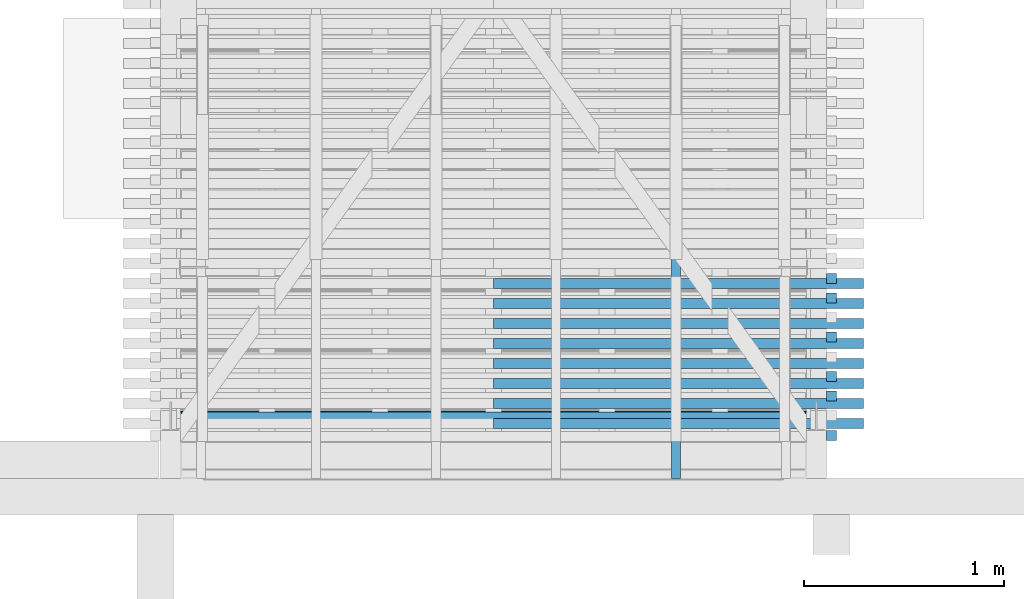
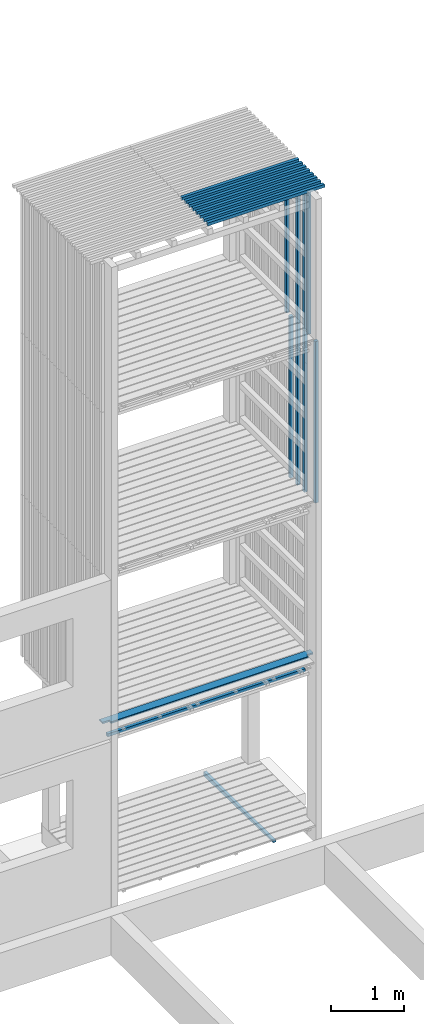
# One storey, part 69 of 182: 19 beams.
"""IFC2X3 building model written with IfcOpenShell, lengths in metres."""

from ifc_helpers import new_model, si_unit, frame, origin, place, context, project, spatial, faceted_brep, element, save


model = new_model("IFC2X3")

# Units and contexts
model_context = context("Model", 3, precision=1e-06, world=origin())
ifc_project = project(units=[si_unit("LENGTHUNIT", "METRE"), si_unit("PLANEANGLEUNIT", "RADIAN")], contexts=[model_context])

# Site, building, storey
site = spatial("IfcSite", under=ifc_project, CompositionType="ELEMENT")
building = spatial("IfcBuilding", under=site, CompositionType="ELEMENT")
storey = spatial("IfcBuildingStorey", under=building, Name="vs", CompositionType="ELEMENT", Elevation=-0.85)

# Beams
placement = place(None, origin())
beam_1_placement = place(placement, frame((26.399999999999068, 11.372350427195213, 5.274999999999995), z_axis=(-1.0, 0.0, 0.0), x_axis=(0.0, 0.0, 1.0)))
element("IfcBeam", 1, at=beam_1_placement, inside=storey, Name="Bardage", context=model_context, shape_type="Brep", body=[
    faceted_brep([(1e-15, -0.024999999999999, 0.024999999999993), (1e-15, 0.024999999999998, 0.024999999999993), (1e-15, 0.024999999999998, -0.025000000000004), (1e-15, -0.024999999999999, -0.025000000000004), (2.699999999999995, -0.024999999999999, -0.025000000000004), (2.699999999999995, 0.024999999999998, -0.025000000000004), (2.699999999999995, 0.024999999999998, 0.024999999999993), (2.699999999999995, -0.024999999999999, 0.024999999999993), (1e-15, -0.024999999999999, 0.024999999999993), (1e-15, -0.024999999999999, -0.025000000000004), (2.699999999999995, -0.024999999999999, -0.025000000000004), (2.699999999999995, -0.024999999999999, 0.024999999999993), (2.699999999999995, -0.024999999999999, -0.025000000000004), (1e-15, -0.024999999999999, -0.025000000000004), (1e-15, 0.024999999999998, -0.025000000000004), (2.699999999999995, 0.024999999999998, -0.025000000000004), (2.699999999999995, 0.024999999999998, -0.025000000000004), (1e-15, 0.024999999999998, -0.025000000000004), (1e-15, 0.024999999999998, 0.024999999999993), (2.699999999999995, 0.024999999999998, 0.024999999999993), (2.699999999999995, 0.024999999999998, 0.024999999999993), (1e-15, 0.024999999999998, 0.024999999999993), (1e-15, -0.024999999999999, 0.024999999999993), (2.699999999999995, -0.024999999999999, 0.024999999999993)], [[[0, 1, 2, 3]], [[4, 5, 6, 7]], [[8, 9, 10, 11]], [[12, 13, 14, 15]], [[16, 17, 18, 19]], [[20, 21, 22, 23]]]),
])
beam_2_placement = place(placement, frame((26.399999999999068, 10.6850776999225, 5.274999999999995), z_axis=(-1.0, 0.0, 0.0), x_axis=(0.0, 0.0, 1.0)))
element("IfcBeam", 2, at=beam_2_placement, inside=storey, Name="Bardage", context=model_context, shape_type="Brep", body=[
    faceted_brep([(1e-15, -0.025000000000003, 0.024999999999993), (1e-15, 0.024999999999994, 0.024999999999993), (1e-15, 0.024999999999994, -0.025000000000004), (1e-15, -0.025000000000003, -0.025000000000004), (2.699999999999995, -0.025000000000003, -0.025000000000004), (2.699999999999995, 0.024999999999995, -0.025000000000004), (2.699999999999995, 0.024999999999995, 0.024999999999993), (2.699999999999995, -0.025000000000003, 0.024999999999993), (1e-15, -0.025000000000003, 0.024999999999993), (1e-15, -0.025000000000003, -0.025000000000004), (2.699999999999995, -0.025000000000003, -0.025000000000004), (2.699999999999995, -0.025000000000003, 0.024999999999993), (2.699999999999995, -0.025000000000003, -0.025000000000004), (1e-15, -0.025000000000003, -0.025000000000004), (1e-15, 0.024999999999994, -0.025000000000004), (2.699999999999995, 0.024999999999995, -0.025000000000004), (2.699999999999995, 0.024999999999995, -0.025000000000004), (1e-15, 0.024999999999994, -0.025000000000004), (1e-15, 0.024999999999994, 0.024999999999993), (2.699999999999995, 0.024999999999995, 0.024999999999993), (2.699999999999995, 0.024999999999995, 0.024999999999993), (1e-15, 0.024999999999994, 0.024999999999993), (1e-15, -0.025000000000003, 0.024999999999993), (2.699999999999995, -0.025000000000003, 0.024999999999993)], [[[0, 1, 2, 3]], [[4, 5, 6, 7]], [[8, 9, 10, 11]], [[12, 13, 14, 15]], [[16, 17, 18, 19]], [[20, 21, 22, 23]]]),
])
beam_3_placement = place(placement, frame((26.559999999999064, 11.045077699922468, 10.47999999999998), z_axis=(0.0, 0.0, 1.0), x_axis=(-1.0, 0.0, 0.0)))
element("IfcBeam", 3, at=beam_3_placement, inside=storey, Name="Bardage", context=model_context, shape_type="Brep", body=[
    faceted_brep([(-3e-15, 0.025000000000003, 0.025000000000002), (-3e-15, -0.024999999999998, 0.025000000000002), (1.849999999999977, -0.025000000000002, 0.025000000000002), (1.849999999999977, 0.025000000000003, 0.025000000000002), (1.849999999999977, -0.025000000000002, 0.025000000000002), (-3e-15, -0.024999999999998, 0.025000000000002), (-3e-15, -0.024999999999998, -0.024999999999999), (1.849999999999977, -0.025000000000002, -0.024999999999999), (-3e-15, -0.024999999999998, 0.025000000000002), (-3e-15, 0.025000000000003, 0.025000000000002), (-3e-15, 0.025000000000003, -0.024999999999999), (-3e-15, -0.024999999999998, -0.024999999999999), (-3e-15, 0.025000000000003, -0.024999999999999), (-3e-15, 0.025000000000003, 0.025000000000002), (1.849999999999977, 0.025000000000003, 0.025000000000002), (1.849999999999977, 0.025000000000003, -0.024999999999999), (1.849999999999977, -0.025000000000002, -0.024999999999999), (-3e-15, -0.024999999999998, -0.024999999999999), (-3e-15, 0.025000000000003, -0.024999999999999), (1.849999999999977, 0.025000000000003, -0.024999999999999), (1.849999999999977, -0.025000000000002, 0.025000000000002), (1.849999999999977, -0.025000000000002, -0.024999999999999), (1.849999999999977, 0.025000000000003, -0.024999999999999), (1.849999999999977, 0.025000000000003, 0.025000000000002)], [[[0, 1, 2, 3]], [[4, 5, 6, 7]], [[8, 9, 10, 11]], [[12, 13, 14, 15]], [[16, 17, 18, 19]], [[20, 21, 22, 23]]]),
])
beam_4_placement = place(placement, frame((26.399999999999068, 10.979623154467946, 5.274999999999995), z_axis=(-1.0, 0.0, 0.0), x_axis=(0.0, 1e-15, 1.0)))
element("IfcBeam", 4, at=beam_4_placement, inside=storey, Name="Bardage", context=model_context, shape_type="Brep", body=[
    faceted_brep([(1e-15, -0.024999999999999, 0.024999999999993), (1e-15, 0.025000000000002, 0.024999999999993), (1e-15, 0.025000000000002, -0.025000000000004), (1e-15, -0.024999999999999, -0.025000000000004), (2.699999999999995, -0.025000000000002, -0.025000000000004), (2.699999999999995, 0.024999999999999, -0.025000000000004), (2.699999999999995, 0.024999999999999, 0.024999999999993), (2.699999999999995, -0.025000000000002, 0.024999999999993), (1e-15, -0.024999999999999, 0.024999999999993), (1e-15, -0.024999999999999, -0.025000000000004), (2.699999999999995, -0.025000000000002, -0.025000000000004), (2.699999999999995, -0.025000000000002, 0.024999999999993), (2.699999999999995, -0.025000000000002, -0.025000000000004), (1e-15, -0.024999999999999, -0.025000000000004), (1e-15, 0.025000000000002, -0.025000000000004), (2.699999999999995, 0.024999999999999, -0.025000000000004), (2.699999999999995, 0.024999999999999, -0.025000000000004), (1e-15, 0.025000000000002, -0.025000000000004), (1e-15, 0.025000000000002, 0.024999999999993), (2.699999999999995, 0.024999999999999, 0.024999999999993), (2.699999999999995, 0.024999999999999, 0.024999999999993), (1e-15, 0.025000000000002, 0.024999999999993), (1e-15, -0.024999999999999, 0.024999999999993), (2.699999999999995, -0.025000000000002, 0.024999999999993)], [[[0, 1, 2, 3]], [[4, 5, 6, 7]], [[8, 9, 10, 11]], [[12, 13, 14, 15]], [[16, 17, 18, 19]], [[20, 21, 22, 23]]]),
])
beam_5_placement = place(placement, frame((26.399999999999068, 11.17598679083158, 5.274999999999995), z_axis=(-1.0, 0.0, 0.0), x_axis=(0.0, 0.0, 1.0)))
element("IfcBeam", 5, at=beam_5_placement, inside=storey, Name="Bardage", context=model_context, shape_type="Brep", body=[
    faceted_brep([(1e-15, -0.025000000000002, 0.024999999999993), (1e-15, 0.024999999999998, 0.024999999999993), (1e-15, 0.024999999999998, -0.025000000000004), (1e-15, -0.025000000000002, -0.025000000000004), (2.699999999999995, -0.025000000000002, -0.025000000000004), (2.699999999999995, 0.024999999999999, -0.025000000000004), (2.699999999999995, 0.024999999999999, 0.024999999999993), (2.699999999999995, -0.025000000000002, 0.024999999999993), (1e-15, -0.025000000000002, 0.024999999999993), (1e-15, -0.025000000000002, -0.025000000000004), (2.699999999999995, -0.025000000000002, -0.025000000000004), (2.699999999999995, -0.025000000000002, 0.024999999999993), (2.699999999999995, -0.025000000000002, -0.025000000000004), (1e-15, -0.025000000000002, -0.025000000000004), (1e-15, 0.024999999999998, -0.025000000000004), (2.699999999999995, 0.024999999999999, -0.025000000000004), (2.699999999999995, 0.024999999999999, -0.025000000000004), (1e-15, 0.024999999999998, -0.025000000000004), (1e-15, 0.024999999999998, 0.024999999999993), (2.699999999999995, 0.024999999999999, 0.024999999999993), (2.699999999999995, 0.024999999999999, 0.024999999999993), (1e-15, 0.024999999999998, 0.024999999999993), (1e-15, -0.025000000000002, 0.024999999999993), (2.699999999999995, -0.025000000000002, 0.024999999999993)], [[[0, 1, 2, 3]], [[4, 5, 6, 7]], [[8, 9, 10, 11]], [[12, 13, 14, 15]], [[16, 17, 18, 19]], [[20, 21, 22, 23]]]),
])
beam_6_placement = place(placement, frame((26.399999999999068, 10.881441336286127, 7.974999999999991), z_axis=(-1.0, 0.0, 0.0), x_axis=(0.0, 0.0, 1.0)))
element("IfcBeam", 6, at=beam_6_placement, inside=storey, Name="Bardage", context=model_context, shape_type="Brep", body=[
    faceted_brep([(2.479999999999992, -0.024999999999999, 0.024999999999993), (2.479999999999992, -0.024999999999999, -0.025000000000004), (2.479999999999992, 0.025000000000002, -0.025000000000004), (2.479999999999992, 0.025000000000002, 0.024999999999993), (0.0, 0.025000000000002, 0.024999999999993), (0.0, -0.024999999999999, 0.024999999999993), (2.479999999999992, -0.024999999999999, 0.024999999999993), (2.479999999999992, 0.025000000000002, 0.024999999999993), (0.0, -0.024999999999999, 0.024999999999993), (0.0, 0.025000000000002, 0.024999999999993), (0.0, 0.025000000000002, -0.025000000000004), (0.0, -0.024999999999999, -0.025000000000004), (0.0, 0.025000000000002, -0.025000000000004), (0.0, 0.025000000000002, 0.024999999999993), (2.479999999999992, 0.025000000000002, 0.024999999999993), (2.479999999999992, 0.025000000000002, -0.025000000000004), (0.0, -0.024999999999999, -0.025000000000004), (0.0, 0.025000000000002, -0.025000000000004), (2.479999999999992, 0.025000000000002, -0.025000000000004), (2.479999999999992, -0.024999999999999, -0.025000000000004), (2.479999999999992, -0.024999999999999, 0.024999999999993), (0.0, -0.024999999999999, 0.024999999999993), (0.0, -0.024999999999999, -0.025000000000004), (2.479999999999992, -0.024999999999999, -0.025000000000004)], [[[0, 1, 2, 3]], [[4, 5, 6, 7]], [[8, 9, 10, 11]], [[12, 13, 14, 15]], [[16, 17, 18, 19]], [[20, 21, 22, 23]]]),
])
beam_7_placement = place(placement, frame((26.399999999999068, 10.979623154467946, 7.974999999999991), z_axis=(-1.0, 0.0, 0.0), x_axis=(0.0, 1e-15, 1.0)))
element("IfcBeam", 7, at=beam_7_placement, inside=storey, Name="Bardage", context=model_context, shape_type="Brep", body=[
    faceted_brep([(2.479999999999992, -0.025000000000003, 0.024999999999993), (2.479999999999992, -0.025000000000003, -0.025000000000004), (2.479999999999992, 0.024999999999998, -0.025000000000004), (2.479999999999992, 0.024999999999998, 0.024999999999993), (0.0, 0.025000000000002, 0.024999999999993), (0.0, -0.024999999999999, 0.024999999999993), (2.479999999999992, -0.025000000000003, 0.024999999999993), (2.479999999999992, 0.024999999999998, 0.024999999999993), (0.0, -0.024999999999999, 0.024999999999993), (0.0, 0.025000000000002, 0.024999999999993), (0.0, 0.025000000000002, -0.025000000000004), (0.0, -0.024999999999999, -0.025000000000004), (0.0, 0.025000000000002, -0.025000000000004), (0.0, 0.025000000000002, 0.024999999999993), (2.479999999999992, 0.024999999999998, 0.024999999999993), (2.479999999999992, 0.024999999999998, -0.025000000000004), (0.0, -0.024999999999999, -0.025000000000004), (0.0, 0.025000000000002, -0.025000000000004), (2.479999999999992, 0.024999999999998, -0.025000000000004), (2.479999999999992, -0.025000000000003, -0.025000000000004), (2.479999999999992, -0.025000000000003, 0.024999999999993), (0.0, -0.024999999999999, 0.024999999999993), (0.0, -0.024999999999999, -0.025000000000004), (2.479999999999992, -0.025000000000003, -0.025000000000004)], [[[0, 1, 2, 3]], [[4, 5, 6, 7]], [[8, 9, 10, 11]], [[12, 13, 14, 15]], [[16, 17, 18, 19]], [[20, 21, 22, 23]]]),
])
beam_8_placement = place(placement, frame((26.559999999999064, 11.245077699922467, 10.47999999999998), z_axis=(0.0, 0.0, 1.0), x_axis=(-1.0, 0.0, 0.0)))
element("IfcBeam", 8, at=beam_8_placement, inside=storey, Name="Bardage", context=model_context, shape_type="Brep", body=[
    faceted_brep([(-3e-15, 0.024999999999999, 0.025000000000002), (-3e-15, -0.024999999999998, 0.025000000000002), (1.849999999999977, -0.024999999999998, 0.025000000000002), (1.849999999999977, 0.024999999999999, 0.025000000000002), (1.849999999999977, -0.024999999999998, 0.025000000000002), (-3e-15, -0.024999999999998, 0.025000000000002), (-3e-15, -0.024999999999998, -0.024999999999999), (1.849999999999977, -0.024999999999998, -0.024999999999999), (-3e-15, -0.024999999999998, 0.025000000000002), (-3e-15, 0.024999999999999, 0.025000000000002), (-3e-15, 0.024999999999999, -0.024999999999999), (-3e-15, -0.024999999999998, -0.024999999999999), (-3e-15, 0.024999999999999, -0.024999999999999), (-3e-15, 0.024999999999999, 0.025000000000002), (1.849999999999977, 0.024999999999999, 0.025000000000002), (1.849999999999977, 0.024999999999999, -0.024999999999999), (1.849999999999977, -0.024999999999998, -0.024999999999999), (-3e-15, -0.024999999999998, -0.024999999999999), (-3e-15, 0.024999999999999, -0.024999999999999), (1.849999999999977, 0.024999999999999, -0.024999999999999), (1.849999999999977, -0.024999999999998, 0.025000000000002), (1.849999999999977, -0.024999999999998, -0.024999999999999), (1.849999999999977, 0.024999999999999, -0.024999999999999), (1.849999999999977, 0.024999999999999, 0.025000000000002)], [[[0, 1, 2, 3]], [[4, 5, 6, 7]], [[8, 9, 10, 11]], [[12, 13, 14, 15]], [[16, 17, 18, 19]], [[20, 21, 22, 23]]]),
])
beam_9_placement = place(placement, frame((26.399999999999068, 11.17598679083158, 7.974999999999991), z_axis=(-1.0, 0.0, 0.0), x_axis=(0.0, 0.0, 1.0)))
element("IfcBeam", 9, at=beam_9_placement, inside=storey, Name="Bardage", context=model_context, shape_type="Brep", body=[
    faceted_brep([(2.479999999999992, -0.025000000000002, 0.024999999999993), (2.479999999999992, -0.025000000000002, -0.025000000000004), (2.479999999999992, 0.024999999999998, -0.025000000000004), (2.479999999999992, 0.024999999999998, 0.024999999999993), (0.0, 0.024999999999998, 0.024999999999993), (0.0, -0.025000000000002, 0.024999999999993), (2.479999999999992, -0.025000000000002, 0.024999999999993), (2.479999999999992, 0.024999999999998, 0.024999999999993), (0.0, -0.025000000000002, 0.024999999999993), (0.0, 0.024999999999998, 0.024999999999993), (0.0, 0.024999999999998, -0.025000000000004), (0.0, -0.025000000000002, -0.025000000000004), (0.0, 0.024999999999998, -0.025000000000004), (0.0, 0.024999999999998, 0.024999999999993), (2.479999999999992, 0.024999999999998, 0.024999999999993), (2.479999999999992, 0.024999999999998, -0.025000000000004), (0.0, -0.025000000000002, -0.025000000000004), (0.0, 0.024999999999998, -0.025000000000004), (2.479999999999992, 0.024999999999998, -0.025000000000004), (2.479999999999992, -0.025000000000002, -0.025000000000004), (2.479999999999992, -0.025000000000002, 0.024999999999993), (0.0, -0.025000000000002, 0.024999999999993), (0.0, -0.025000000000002, -0.025000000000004), (2.479999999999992, -0.025000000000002, -0.025000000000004)], [[[0, 1, 2, 3]], [[4, 5, 6, 7]], [[8, 9, 10, 11]], [[12, 13, 14, 15]], [[16, 17, 18, 19]], [[20, 21, 22, 23]]]),
])
beam_10_placement = place(placement, frame((25.622999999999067, 10.470077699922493, -0.015599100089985), z_axis=(0.0, 0.0, 1.0), x_axis=(0.0, 1.0, 0.0)))
element("IfcBeam", 10, at=beam_10_placement, inside=storey, Name="Calage", context=model_context, shape_type="Brep", body=[
    faceted_brep([(0.0, 0.022499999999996, 0.002600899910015), (1.91000000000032, 0.022499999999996, -0.035599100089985), (1.91000000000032, -0.022500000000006, -0.035599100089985), (0.0, -0.022500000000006, 0.002600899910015), (0.0, -0.022500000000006, 0.035599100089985), (0.0, 0.022499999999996, 0.035599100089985), (0.0, 0.022499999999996, 0.002600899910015), (0.0, -0.022500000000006, 0.002600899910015), (0.0, 0.022499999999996, 0.035599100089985), (0.0, -0.022500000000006, 0.035599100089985), (1.91000000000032, -0.022500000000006, 0.035599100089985), (1.91000000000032, 0.022499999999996, 0.035599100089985), (0.0, 0.022499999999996, 0.002600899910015), (0.0, 0.022499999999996, 0.035599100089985), (1.91000000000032, 0.022499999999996, 0.035599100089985), (1.91000000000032, 0.022499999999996, -0.035599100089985), (1.91000000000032, 0.022499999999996, -0.035599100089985), (1.91000000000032, 0.022499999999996, 0.035599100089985), (1.91000000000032, -0.022500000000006, 0.035599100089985), (1.91000000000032, -0.022500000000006, -0.035599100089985), (1.91000000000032, -0.022500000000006, -0.035599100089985), (1.91000000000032, -0.022500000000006, 0.035599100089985), (0.0, -0.022500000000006, 0.035599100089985), (0.0, -0.022500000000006, 0.002600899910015)], [[[0, 1, 2, 3]], [[4, 5, 6, 7]], [[8, 9, 10, 11]], [[12, 13, 14, 15]], [[16, 17, 18, 19]], [[20, 21, 22, 23]]]),
])
beam_11_placement = place(placement, frame((26.399999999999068, 11.470532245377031, 7.974999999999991), z_axis=(-1.0, 0.0, 0.0), x_axis=(0.0, 0.0, 1.0)))
element("IfcBeam", 11, at=beam_11_placement, inside=storey, Name="Bardage", context=model_context, shape_type="Brep", body=[
    faceted_brep([(2.479999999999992, -0.025000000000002, 0.024999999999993), (2.479999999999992, -0.025000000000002, -0.025000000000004), (2.479999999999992, 0.025000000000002, -0.025000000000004), (2.479999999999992, 0.025000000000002, 0.024999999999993), (0.0, 0.025000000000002, 0.024999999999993), (0.0, -0.025000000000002, 0.024999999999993), (2.479999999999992, -0.025000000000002, 0.024999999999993), (2.479999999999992, 0.025000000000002, 0.024999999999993), (0.0, -0.025000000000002, 0.024999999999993), (0.0, 0.025000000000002, 0.024999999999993), (0.0, 0.025000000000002, -0.025000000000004), (0.0, -0.025000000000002, -0.025000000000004), (0.0, 0.025000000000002, -0.025000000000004), (0.0, 0.025000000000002, 0.024999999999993), (2.479999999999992, 0.025000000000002, 0.024999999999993), (2.479999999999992, 0.025000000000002, -0.025000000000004), (0.0, -0.025000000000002, -0.025000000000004), (0.0, 0.025000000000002, -0.025000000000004), (2.479999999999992, 0.025000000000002, -0.025000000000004), (2.479999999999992, -0.025000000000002, -0.025000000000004), (2.479999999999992, -0.025000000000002, 0.024999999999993), (0.0, -0.025000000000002, 0.024999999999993), (0.0, -0.025000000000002, -0.025000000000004), (2.479999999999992, -0.025000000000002, -0.025000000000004)], [[[0, 1, 2, 3]], [[4, 5, 6, 7]], [[8, 9, 10, 11]], [[12, 13, 14, 15]], [[16, 17, 18, 19]], [[20, 21, 22, 23]]]),
])
beam_12_placement = place(placement, frame((26.559999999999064, 11.145077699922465, 10.47999999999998), z_axis=(0.0, 0.0, 1.0), x_axis=(-1.0, 0.0, 0.0)))
element("IfcBeam", 12, at=beam_12_placement, inside=storey, Name="Bardage", context=model_context, shape_type="Brep", body=[
    faceted_brep([(-3e-15, 0.024999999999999, 0.025000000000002), (-3e-15, -0.025000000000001, 0.025000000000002), (1.849999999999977, -0.025000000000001, 0.025000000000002), (1.849999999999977, 0.024999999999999, 0.025000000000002), (1.849999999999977, -0.025000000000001, 0.025000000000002), (-3e-15, -0.025000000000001, 0.025000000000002), (-3e-15, -0.025000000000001, -0.024999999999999), (1.849999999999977, -0.025000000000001, -0.024999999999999), (-3e-15, -0.025000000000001, 0.025000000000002), (-3e-15, 0.024999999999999, 0.025000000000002), (-3e-15, 0.024999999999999, -0.024999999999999), (-3e-15, -0.025000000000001, -0.024999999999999), (-3e-15, 0.024999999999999, -0.024999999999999), (-3e-15, 0.024999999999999, 0.025000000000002), (1.849999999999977, 0.024999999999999, 0.025000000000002), (1.849999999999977, 0.024999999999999, -0.024999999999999), (1.849999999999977, -0.025000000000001, -0.024999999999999), (-3e-15, -0.025000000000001, -0.024999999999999), (-3e-15, 0.024999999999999, -0.024999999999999), (1.849999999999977, 0.024999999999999, -0.024999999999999), (1.849999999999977, -0.025000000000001, 0.025000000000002), (1.849999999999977, -0.025000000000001, -0.024999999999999), (1.849999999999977, 0.024999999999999, -0.024999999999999), (1.849999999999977, 0.024999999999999, 0.025000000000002)], [[[0, 1, 2, 3]], [[4, 5, 6, 7]], [[8, 9, 10, 11]], [[12, 13, 14, 15]], [[16, 17, 18, 19]], [[20, 21, 22, 23]]]),
])
beam_13_placement = place(placement, frame((26.559999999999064, 10.845077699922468, 10.47999999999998), z_axis=(0.0, 0.0, 1.0), x_axis=(-1.0, 0.0, 0.0)))
element("IfcBeam", 13, at=beam_13_placement, inside=storey, Name="Bardage", context=model_context, shape_type="Brep", body=[
    faceted_brep([(-3e-15, 0.025000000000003, 0.025000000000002), (-3e-15, -0.024999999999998, 0.025000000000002), (1.849999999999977, -0.024999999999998, 0.025000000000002), (1.849999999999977, 0.025000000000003, 0.025000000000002), (1.849999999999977, -0.024999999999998, 0.025000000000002), (-3e-15, -0.024999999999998, 0.025000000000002), (-3e-15, -0.024999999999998, -0.024999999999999), (1.849999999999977, -0.024999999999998, -0.024999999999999), (-3e-15, -0.024999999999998, 0.025000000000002), (-3e-15, 0.025000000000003, 0.025000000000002), (-3e-15, 0.025000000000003, -0.024999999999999), (-3e-15, -0.024999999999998, -0.024999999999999), (-3e-15, 0.025000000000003, -0.024999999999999), (-3e-15, 0.025000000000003, 0.025000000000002), (1.849999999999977, 0.025000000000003, 0.025000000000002), (1.849999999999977, 0.025000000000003, -0.024999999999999), (1.849999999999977, -0.024999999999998, -0.024999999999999), (-3e-15, -0.024999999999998, -0.024999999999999), (-3e-15, 0.025000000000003, -0.024999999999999), (1.849999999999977, 0.025000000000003, -0.024999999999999), (1.849999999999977, -0.024999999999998, 0.025000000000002), (1.849999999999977, -0.024999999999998, -0.024999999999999), (1.849999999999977, 0.025000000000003, -0.024999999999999), (1.849999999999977, 0.025000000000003, 0.025000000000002)], [[[0, 1, 2, 3]], [[4, 5, 6, 7]], [[8, 9, 10, 11]], [[12, 13, 14, 15]], [[16, 17, 18, 19]], [[20, 21, 22, 23]]]),
])
beam_14_placement = place(placement, frame((26.559999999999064, 10.745077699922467, 10.47999999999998), z_axis=(0.0, 0.0, 1.0), x_axis=(-1.0, 0.0, 0.0)))
element("IfcBeam", 14, at=beam_14_placement, inside=storey, Name="Bardage", context=model_context, shape_type="Brep", body=[
    faceted_brep([(-3e-15, 0.024999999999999, 0.025000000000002), (-3e-15, -0.024999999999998, 0.025000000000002), (1.849999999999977, -0.025000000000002, 0.025000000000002), (1.849999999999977, 0.024999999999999, 0.025000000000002), (1.849999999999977, -0.025000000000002, 0.025000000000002), (-3e-15, -0.024999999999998, 0.025000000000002), (-3e-15, -0.024999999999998, -0.024999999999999), (1.849999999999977, -0.025000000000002, -0.024999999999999), (-3e-15, -0.024999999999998, 0.025000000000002), (-3e-15, 0.024999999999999, 0.025000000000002), (-3e-15, 0.024999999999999, -0.024999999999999), (-3e-15, -0.024999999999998, -0.024999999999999), (-3e-15, 0.024999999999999, -0.024999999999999), (-3e-15, 0.024999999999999, 0.025000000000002), (1.849999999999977, 0.024999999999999, 0.025000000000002), (1.849999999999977, 0.024999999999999, -0.024999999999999), (1.849999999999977, -0.025000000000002, -0.024999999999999), (-3e-15, -0.024999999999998, -0.024999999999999), (-3e-15, 0.024999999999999, -0.024999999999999), (1.849999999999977, 0.024999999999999, -0.024999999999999), (1.849999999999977, -0.025000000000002, 0.025000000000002), (1.849999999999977, -0.025000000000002, -0.024999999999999), (1.849999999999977, 0.024999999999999, -0.024999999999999), (1.849999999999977, 0.024999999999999, 0.025000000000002)], [[[0, 1, 2, 3]], [[4, 5, 6, 7]], [[8, 9, 10, 11]], [[12, 13, 14, 15]], [[16, 17, 18, 19]], [[20, 21, 22, 23]]]),
])
beam_15_placement = place(placement, frame((26.559999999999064, 11.445077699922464, 10.47999999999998), z_axis=(0.0, 0.0, 1.0), x_axis=(-1.0, 2e-15, 0.0)))
element("IfcBeam", 15, at=beam_15_placement, inside=storey, Name="Bardage", context=model_context, shape_type="Brep", body=[
    faceted_brep([(-3e-15, 0.024999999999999, 0.025000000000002), (-3e-15, -0.025000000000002, 0.025000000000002), (1.849999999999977, -0.024999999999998, 0.025000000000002), (1.849999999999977, 0.025000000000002, 0.025000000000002), (1.849999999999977, -0.024999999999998, 0.025000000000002), (-3e-15, -0.025000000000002, 0.025000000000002), (-3e-15, -0.025000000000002, -0.024999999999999), (1.849999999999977, -0.024999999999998, -0.024999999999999), (-3e-15, -0.025000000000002, 0.025000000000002), (-3e-15, 0.024999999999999, 0.025000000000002), (-3e-15, 0.024999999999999, -0.024999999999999), (-3e-15, -0.025000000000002, -0.024999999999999), (-3e-15, 0.024999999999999, -0.024999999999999), (-3e-15, 0.024999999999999, 0.025000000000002), (1.849999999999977, 0.025000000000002, 0.025000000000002), (1.849999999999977, 0.025000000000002, -0.024999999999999), (1.849999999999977, -0.024999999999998, -0.024999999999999), (-3e-15, -0.025000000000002, -0.024999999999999), (-3e-15, 0.024999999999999, -0.024999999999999), (1.849999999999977, 0.025000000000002, -0.024999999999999), (1.849999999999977, -0.024999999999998, 0.025000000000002), (1.849999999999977, -0.024999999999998, -0.024999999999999), (1.849999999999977, 0.025000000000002, -0.024999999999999), (1.849999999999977, 0.025000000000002, 0.025000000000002)], [[[0, 1, 2, 3]], [[4, 5, 6, 7]], [[8, 9, 10, 11]], [[12, 13, 14, 15]], [[16, 17, 18, 19]], [[20, 21, 22, 23]]]),
])
beam_16_placement = place(placement, frame((26.559999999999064, 10.945077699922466, 10.47999999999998), z_axis=(0.0, 0.0, 1.0), x_axis=(-1.0, 2e-15, 0.0)))
element("IfcBeam", 16, at=beam_16_placement, inside=storey, Name="Bardage", context=model_context, shape_type="Brep", body=[
    faceted_brep([(-3e-15, 0.024999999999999, 0.025000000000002), (-3e-15, -0.025000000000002, 0.025000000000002), (1.849999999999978, -0.024999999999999, 0.025000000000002), (1.849999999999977, 0.025000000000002, 0.025000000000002), (1.849999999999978, -0.024999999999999, 0.025000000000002), (-3e-15, -0.025000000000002, 0.025000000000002), (-3e-15, -0.025000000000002, -0.024999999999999), (1.849999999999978, -0.024999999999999, -0.024999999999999), (-3e-15, -0.025000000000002, 0.025000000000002), (-3e-15, 0.024999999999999, 0.025000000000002), (-3e-15, 0.024999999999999, -0.024999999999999), (-3e-15, -0.025000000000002, -0.024999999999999), (-3e-15, 0.024999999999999, -0.024999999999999), (-3e-15, 0.024999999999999, 0.025000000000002), (1.849999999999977, 0.025000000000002, 0.025000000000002), (1.849999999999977, 0.025000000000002, -0.024999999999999), (1.849999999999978, -0.024999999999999, -0.024999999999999), (-3e-15, -0.025000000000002, -0.024999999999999), (-3e-15, 0.024999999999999, -0.024999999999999), (1.849999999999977, 0.025000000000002, -0.024999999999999), (1.849999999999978, -0.024999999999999, 0.025000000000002), (1.849999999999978, -0.024999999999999, -0.024999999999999), (1.849999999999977, 0.025000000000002, -0.024999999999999), (1.849999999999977, 0.025000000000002, 0.025000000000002)], [[[0, 1, 2, 3]], [[4, 5, 6, 7]], [[8, 9, 10, 11]], [[12, 13, 14, 15]], [[16, 17, 18, 19]], [[20, 21, 22, 23]]]),
])
beam_17_placement = place(placement, frame((26.559999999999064, 11.345077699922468, 10.47999999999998), z_axis=(0.0, 0.0, 1.0), x_axis=(-1.0, 0.0, 0.0)))
element("IfcBeam", 17, at=beam_17_placement, inside=storey, Name="Bardage", context=model_context, shape_type="Brep", body=[
    faceted_brep([(-3e-15, 0.025000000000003, 0.025000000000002), (-3e-15, -0.024999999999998, 0.025000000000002), (1.849999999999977, -0.024999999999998, 0.025000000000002), (1.849999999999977, 0.024999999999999, 0.025000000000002), (1.849999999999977, -0.024999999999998, 0.025000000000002), (-3e-15, -0.024999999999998, 0.025000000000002), (-3e-15, -0.024999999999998, -0.024999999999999), (1.849999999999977, -0.024999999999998, -0.024999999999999), (-3e-15, -0.024999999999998, 0.025000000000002), (-3e-15, 0.025000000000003, 0.025000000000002), (-3e-15, 0.025000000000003, -0.024999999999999), (-3e-15, -0.024999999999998, -0.024999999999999), (-3e-15, 0.025000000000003, -0.024999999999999), (-3e-15, 0.025000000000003, 0.025000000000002), (1.849999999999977, 0.024999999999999, 0.025000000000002), (1.849999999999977, 0.024999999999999, -0.024999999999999), (1.849999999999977, -0.024999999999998, -0.024999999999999), (-3e-15, -0.024999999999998, -0.024999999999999), (-3e-15, 0.025000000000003, -0.024999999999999), (1.849999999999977, 0.024999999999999, -0.024999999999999), (1.849999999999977, -0.024999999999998, 0.025000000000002), (1.849999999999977, -0.024999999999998, -0.024999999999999), (1.849999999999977, 0.024999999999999, -0.024999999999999), (1.849999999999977, 0.024999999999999, 0.025000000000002)], [[[0, 1, 2, 3]], [[4, 5, 6, 7]], [[8, 9, 10, 11]], [[12, 13, 14, 15]], [[16, 17, 18, 19]], [[20, 21, 22, 23]]]),
])
beam_18_placement = place(placement, frame((26.374999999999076, 10.734577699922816, 2.733499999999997), z_axis=(0.0, 0.0, 1.0), x_axis=(-1.0, 0.0, 0.0)))
element("IfcBeam", 18, at=beam_18_placement, inside=storey, Name="Caillebotis", context=model_context, shape_type="Brep", body=[
    faceted_brep([(0.0, -0.072499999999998, -0.0135), (0.0, -0.072499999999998, 0.008500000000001), (0.0, -0.067499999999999, 0.0135), (0.0, 0.019500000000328, 0.0135), (0.0, 0.019500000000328, -0.0135), (3.329999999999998, -0.067499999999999, 0.0135), (3.329999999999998, 0.019500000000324, 0.0135), (3.225000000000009, 0.019500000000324, 0.0135), (3.225000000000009, 0.067500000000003, 0.0135), (0.105000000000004, 0.067500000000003, 0.0135), (0.105000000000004, 0.019500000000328, 0.0135), (0.0, 0.019500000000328, 0.0135), (0.0, -0.067499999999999, 0.0135), (0.105000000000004, 0.019500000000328, 0.0135), (0.105000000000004, 0.067500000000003, 0.0135), (0.105000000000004, 0.072500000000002, 0.0085), (0.105000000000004, 0.072500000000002, -0.0135), (0.105000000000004, 0.019500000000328, -0.0135), (0.105000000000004, 0.072500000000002, 0.0085), (0.105000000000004, 0.067500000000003, 0.0135), (3.225000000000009, 0.067500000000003, 0.0135), (3.225000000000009, 0.072500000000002, 0.0085), (0.105000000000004, 0.072500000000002, -0.0135), (0.105000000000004, 0.072500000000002, 0.0085), (3.225000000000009, 0.072500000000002, 0.0085), (3.225000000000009, 0.072500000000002, -0.0135), (3.225000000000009, 0.072500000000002, -0.0135), (3.225000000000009, 0.072500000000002, 0.0085), (3.225000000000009, 0.067500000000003, 0.0135), (3.225000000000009, 0.019500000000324, 0.0135), (3.225000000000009, 0.019500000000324, -0.0135), (3.225000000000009, 0.019500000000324, -0.0135), (3.225000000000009, 0.019500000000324, 0.0135), (3.329999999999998, 0.019500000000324, 0.0135), (3.329999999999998, 0.019500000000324, -0.0135), (3.329999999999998, -0.072499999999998, 0.008500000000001), (3.329999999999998, -0.072499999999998, -0.0135), (3.329999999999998, 0.019500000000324, -0.0135), (3.329999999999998, 0.019500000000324, 0.0135), (3.329999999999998, -0.067499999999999, 0.0135), (3.329999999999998, -0.072499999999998, 0.008500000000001), (3.329999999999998, -0.067499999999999, 0.0135), (0.0, -0.067499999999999, 0.0135), (0.0, -0.072499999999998, 0.008500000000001), (3.329999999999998, -0.072499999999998, -0.0135), (3.329999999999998, -0.072499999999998, 0.008500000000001), (0.0, -0.072499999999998, 0.008500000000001), (0.0, -0.072499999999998, -0.0135), (0.105000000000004, 0.019500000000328, -0.0135), (0.105000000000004, 0.072500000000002, -0.0135), (3.225000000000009, 0.072500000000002, -0.0135), (3.225000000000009, 0.019500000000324, -0.0135), (3.329999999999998, 0.019500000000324, -0.0135), (3.329999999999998, -0.072499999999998, -0.0135), (0.0, -0.072499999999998, -0.0135), (0.0, 0.019500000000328, -0.0135), (0.0, 0.019500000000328, 0.0135), (0.105000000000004, 0.019500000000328, 0.0135), (0.105000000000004, 0.019500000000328, -0.0135), (0.0, 0.019500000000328, -0.0135)], [[[0, 1, 2, 3, 4]], [[5, 6, 7, 8, 9, 10, 11, 12]], [[13, 14, 15, 16, 17]], [[18, 19, 20, 21]], [[22, 23, 24, 25]], [[26, 27, 28, 29, 30]], [[31, 32, 33, 34]], [[35, 36, 37, 38, 39]], [[40, 41, 42, 43]], [[44, 45, 46, 47]], [[48, 49, 50, 51, 52, 53, 54, 55]], [[56, 57, 58, 59]]]),
])
beam_19_placement = place(placement, frame((26.269999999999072, 10.776952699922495, 2.467999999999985), z_axis=(0.0, 0.0, 1.0), x_axis=(-1.0, 0.0, 0.0)))
element("IfcBeam", 19, at=beam_19_placement, inside=storey, Name="Bardage", context=model_context, shape_type="Brep", body=[
    faceted_brep([(3.120000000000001, 0.025000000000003, -0.025), (3.120000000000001, -0.024999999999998, -0.025), (-3e-15, -0.024999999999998, -0.025), (-3e-15, 0.025000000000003, -0.025), (-3e-15, -0.024999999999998, -0.025), (3.120000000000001, -0.024999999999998, -0.025), (3.120000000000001, -0.024999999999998, 0.025), (-3e-15, -0.024999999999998, 0.025), (3.120000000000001, -0.024999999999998, -0.025), (3.120000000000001, 0.025000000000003, -0.025), (3.120000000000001, 0.025000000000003, 0.025), (3.120000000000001, -0.024999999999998, 0.025), (3.120000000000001, 0.025000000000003, 0.025), (3.120000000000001, 0.025000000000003, -0.025), (-3e-15, 0.025000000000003, -0.025), (-3e-15, 0.025000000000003, 0.025), (-3e-15, -0.024999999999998, 0.025), (3.120000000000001, -0.024999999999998, 0.025), (3.120000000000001, 0.025000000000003, 0.025), (-3e-15, 0.025000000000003, 0.025), (-3e-15, -0.024999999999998, -0.025), (-3e-15, -0.024999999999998, 0.025), (-3e-15, 0.025000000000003, 0.025), (-3e-15, 0.025000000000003, -0.025)], [[[0, 1, 2, 3]], [[4, 5, 6, 7]], [[8, 9, 10, 11]], [[12, 13, 14, 15]], [[16, 17, 18, 19]], [[20, 21, 22, 23]]]),
])

save(model, "model.ifc")
